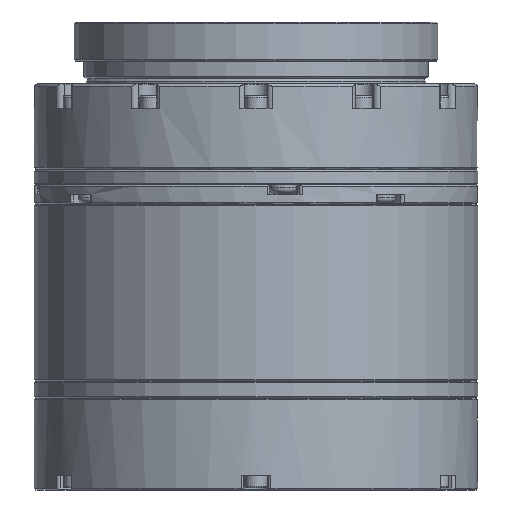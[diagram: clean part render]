
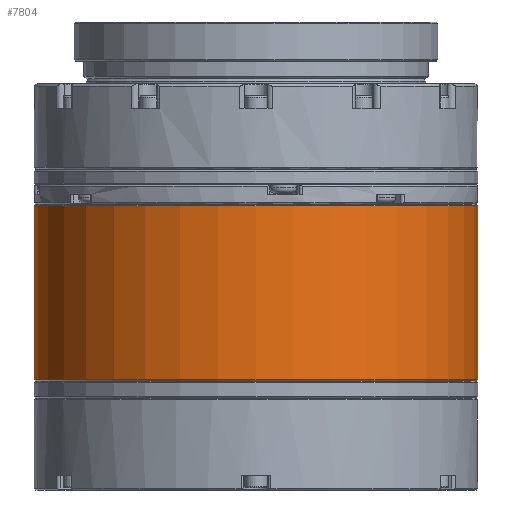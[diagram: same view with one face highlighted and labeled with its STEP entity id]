
A CAD part, front view. The second image highlights one B-rep face of the part: STEP entity #7804.
In plain terms, the highlighted cylindrical face has radius 45 mm (diameter 90 mm), a full revolution.
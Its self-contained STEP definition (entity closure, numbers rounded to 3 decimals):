
#6765=CYLINDRICAL_SURFACE('',#35250,45.);
#7804=ADVANCED_FACE('',(#11409,#11410),#6765,.T.);
#11409=FACE_BOUND('',#14152,.T.);
#11410=FACE_BOUND('',#14153,.T.);
#14152=EDGE_LOOP('',(#18761));
#14153=EDGE_LOOP('',(#18762));
#18761=ORIENTED_EDGE('',*,*,#28596,.F.);
#18762=ORIENTED_EDGE('',*,*,#28595,.T.);
#25515=VERTEX_POINT('',#52612);
#25516=VERTEX_POINT('',#52615);
#28595=EDGE_CURVE('',#25515,#25515,#32261,.T.);
#28596=EDGE_CURVE('',#25516,#25516,#32262,.T.);
#32261=CIRCLE('',#35247,45.);
#32262=CIRCLE('',#35249,45.);
#35247=AXIS2_PLACEMENT_3D('',#52611,#41646,#41647);
#35249=AXIS2_PLACEMENT_3D('',#52614,#41650,#41651);
#35250=AXIS2_PLACEMENT_3D('',#52616,#41652,#41653);
#41646=DIRECTION('',(0.,0.,-1.));
#41647=DIRECTION('',(0.,1.,0.));
#41650=DIRECTION('',(0.,0.,-1.));
#41651=DIRECTION('',(0.,1.,0.));
#41652=DIRECTION('',(0.,0.,-1.));
#41653=DIRECTION('',(0.,-1.,0.));
#52611=CARTESIAN_POINT('',(0.,0.,1.5));
#52612=CARTESIAN_POINT('',(0.,45.,1.5));
#52614=CARTESIAN_POINT('',(0.,0.,-33.8));
#52615=CARTESIAN_POINT('',(0.,45.,-33.8));
#52616=CARTESIAN_POINT('',(0.,0.,-34.1));
